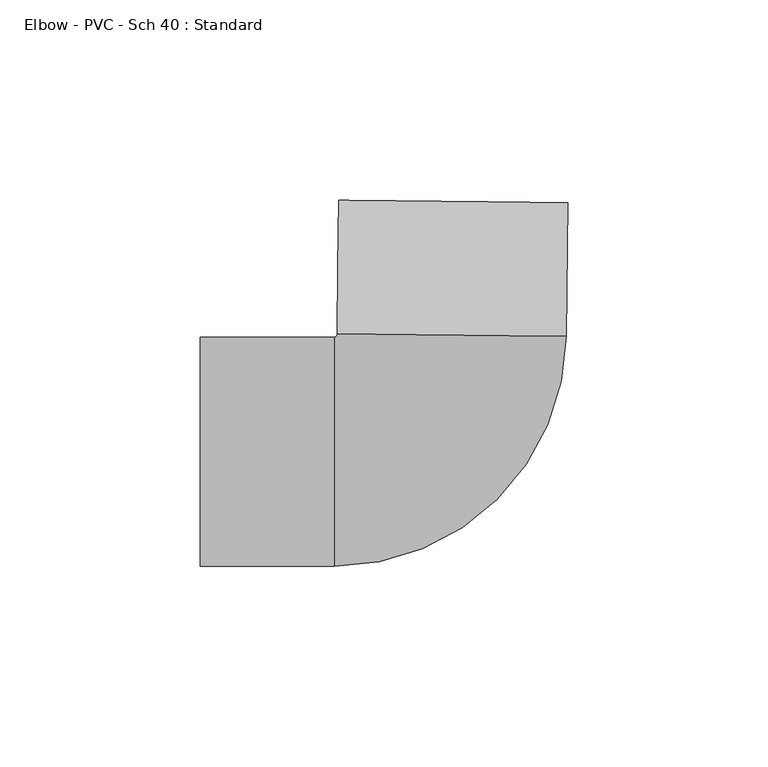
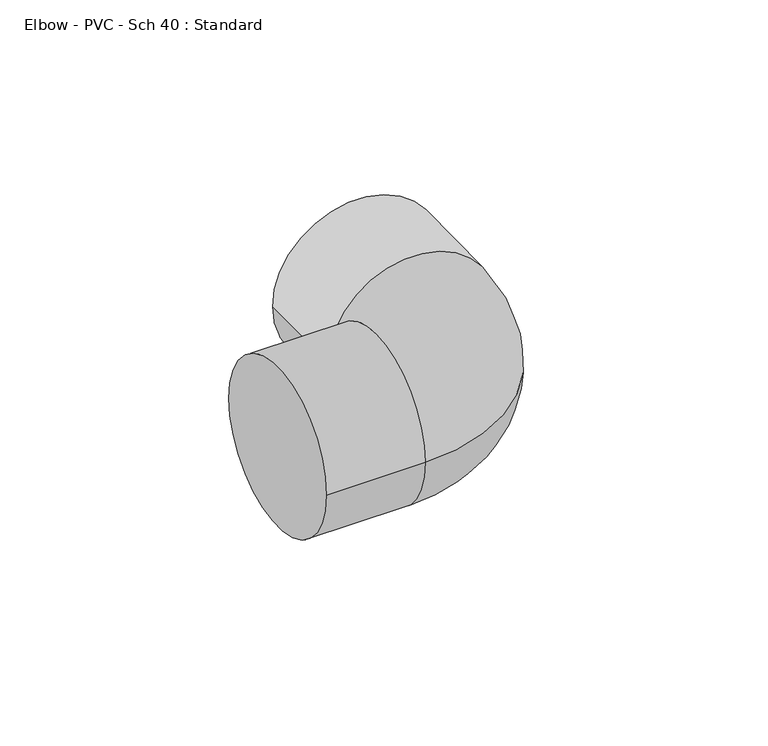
"""IFC4 building model written with IfcOpenShell, lengths in millimetres: pipe fitting geometry, Elbow - PVC - Sch 40 : Standard."""

from ifc_helpers import new_model, si_unit, point, frame, origin, place, context, project, spatial, circle_curve, ellipse_curve, trimmed, source, transform, mapped, element, save
from ifc_brep_helpers import plane_surface, cylinder_surface, revolved_surface, advanced_brep


def elbow_pvc_sch_40_standard_abbfb362(model_context):
    return source(origin(), model_context, "Body", "AdvancedBrep", [
        advanced_brep(
        [(-62.4146188, -28.575, 0.0), (-62.4146188, 28.575, 0.0), (-29.0644188, -28.575, 0.0), (-29.0644188, 28.575, 0.0), (-28.2707119, 29.3604822, 0.0), (28.8761878, 28.765202, 0.0), (29.2235668, 62.1135928, 0.0), (-27.9233328, 62.708873, 0.0)],
        [
            (0, 1, circle_curve(frame((-62.4146188, 0.0, 0.0), z_axis=(-1.0, 0.0, 0.0), x_axis=(0.0, 1.0, 0.0)), 28.575)),
            (1, 0, circle_curve(frame((-62.4146188, 0.0, 0.0), z_axis=(-1.0, 0.0, 0.0), x_axis=(0.0, 1.0, 0.0)), 28.575)),
            (0, 2),
            (2, 3, circle_curve(frame((-29.0644188, 0.0, 0.0), z_axis=(-1.0, 0.0, 0.0), x_axis=(0.0, 1.0, 0.0)), 28.575)),
            (3, 1),
            (3, 2, circle_curve(frame((-29.0644188, 0.0, 0.0), z_axis=(-1.0, 0.0, 0.0), x_axis=(0.0, 1.0, 0.0)), 28.575)),
            (4, 3, circle_curve(frame((-29.0644188, 29.36875, 0.0), z_axis=(0.0, 0.0, -1.0), x_axis=(0.0, -1.0, 0.0)), 0.79375)),
            (2, 5, circle_curve(frame((-29.0644188, 29.36875, 0.0), z_axis=(0.0, 0.0, 1.0), x_axis=(0.0, -1.0, 0.0)), 57.94375)),
            (5, 4, circle_curve(frame((0.3027379, 29.0628421, 0.0), z_axis=(-0.010416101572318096, -0.9999457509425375, 0.0), x_axis=(-0.9999457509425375, 0.010416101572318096, 0.0)), 28.575)),
            (4, 5, circle_curve(frame((0.3027379, 29.0628421, 0.0), z_axis=(-0.010416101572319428, -0.9999457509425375, 0.0), x_axis=(-0.9999457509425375, 0.010416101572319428, 0.0)), 28.575)),
            (6, 7, circle_curve(frame((0.650117, 62.4112329, 0.0), z_axis=(0.010416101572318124, 0.9999457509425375, 0.0), x_axis=(-0.9999457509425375, 0.010416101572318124, 0.0)), 28.575)),
            (7, 6, circle_curve(frame((0.650117, 62.4112329, 0.0), z_axis=(0.010416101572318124, 0.9999457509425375, 0.0), x_axis=(-0.9999457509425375, 0.010416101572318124, 0.0)), 28.575)),
            (5, 6),
            (7, 4),
        ],
        [
            plane_surface(frame((-62.4146188, 0.0, 0.0), z_axis=(-1.0, 0.0, 0.0), x_axis=(0.0, 0.0, 1.0))),
            cylinder_surface(frame((-62.4146188, 0.0, 0.0), z_axis=(-1.0, 0.0, 0.0), x_axis=(0.0, 1.0, 0.0)), 28.575),
            revolved_surface(trimmed(ellipse_curve(frame((-29.0644188, 0.0, 0.0), z_axis=(-1.0, 0.0, 0.0), x_axis=(0.0, 1.0, 0.0)), 28.575, 28.575), [point((-29.0644188, -28.575, 0.0))], [point((-29.0644188, 28.575, 0.0))], True, "CARTESIAN"), (-29.0644188, 29.36875, 0.0), (0.0, 0.0, 1.0)),
            revolved_surface(trimmed(ellipse_curve(frame((-29.0644188, 0.0, 0.0), z_axis=(-1.0, 0.0, 0.0), x_axis=(0.0, 1.0, 0.0)), 28.575, 28.575), [point((-29.0644188, 28.575, 0.0))], [point((-29.0644188, -28.575, 0.0))], True, "CARTESIAN"), (-29.0644188, 29.36875, 0.0), (0.0, 0.0, 1.0)),
            plane_surface(frame((0.650117, 62.4112329, 0.0), z_axis=(0.010416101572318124, 0.9999457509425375, 0.0), x_axis=(0.0, 0.0, 1.0))),
            cylinder_surface(frame((0.3027379, 29.0628421, 0.0), z_axis=(-0.010416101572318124, -0.9999457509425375, 0.0), x_axis=(-0.9999457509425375, 0.010416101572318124, 0.0)), 28.575),
        ],
        [
            (0, [[1, 2]]),
            (1, [[-1, 3, 4, 5]]),
            (1, [[-2, -5, 6, -3]]),
            (2, [[7, -4, 8, 9]]),
            (3, [[-8, -6, -7, 10]]),
            (4, [[11, 12]]),
            (5, [[-9, 13, -12, 14]]),
            (5, [[-10, -14, -11, -13]]),
        ],
    ),
    ])


if __name__ == "__main__":
    model = new_model("IFC4")
    model_context = context("Model", 3, world=origin())
    ifc_project = project(units=[si_unit("LENGTHUNIT", "METRE", prefix="MILLI")], contexts=[model_context])
    site = spatial("IfcSite", under=ifc_project)
    building = spatial("IfcBuilding", under=site)
    placement = place(None, origin())
    elbow_pvc_sch_40_standard_shape = elbow_pvc_sch_40_standard_abbfb362(model_context)
    element("IfcPipeFitting", 1, ObjectType="Elbow - PVC - Sch 40 : Standard", at=placement, inside=building, context=model_context, shape_type="MappedRepresentation", body=[
        mapped(elbow_pvc_sch_40_standard_shape, transform((0.0, 0.0, 0.0), x_axis=(1.0, 0.0, 0.0), y_axis=(0.0, 1.0, 0.0), z_axis=(0.0, 0.0, 1.0))),
    ])
    save(model, "model.ifc")
